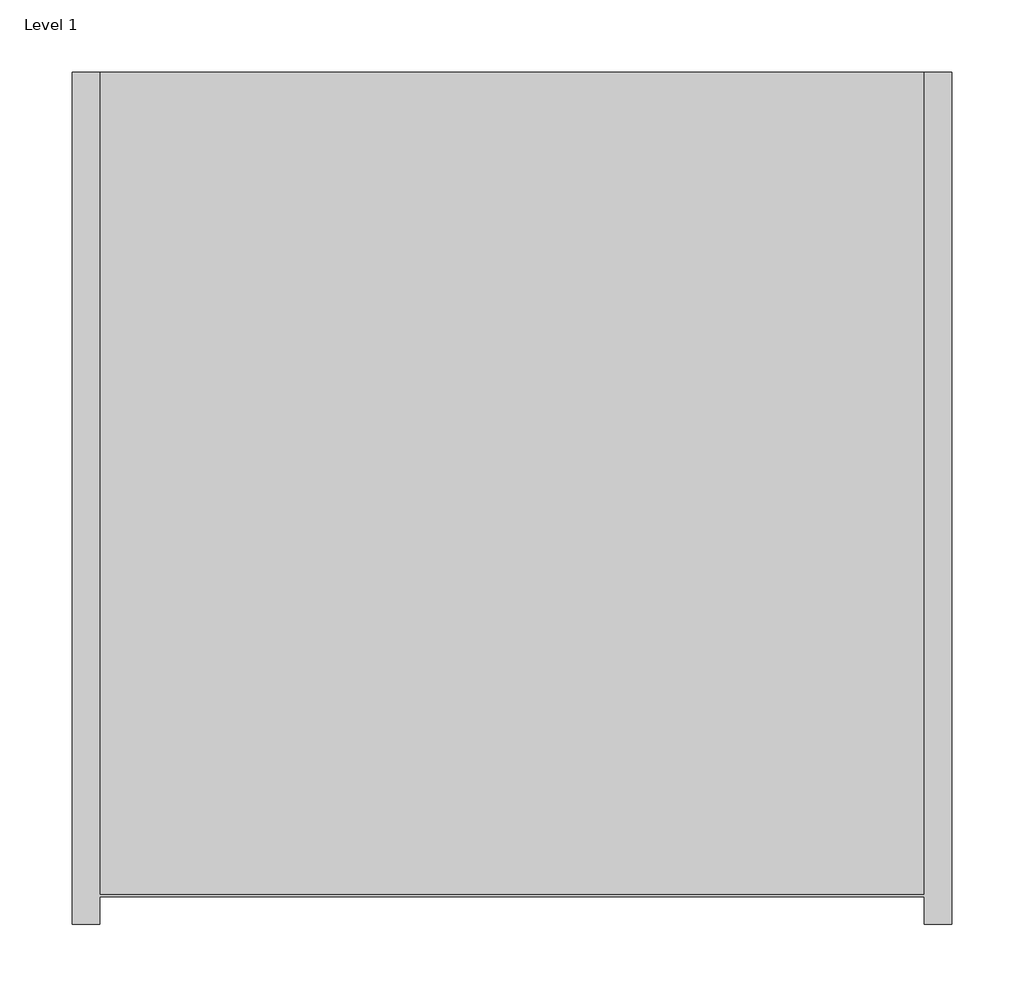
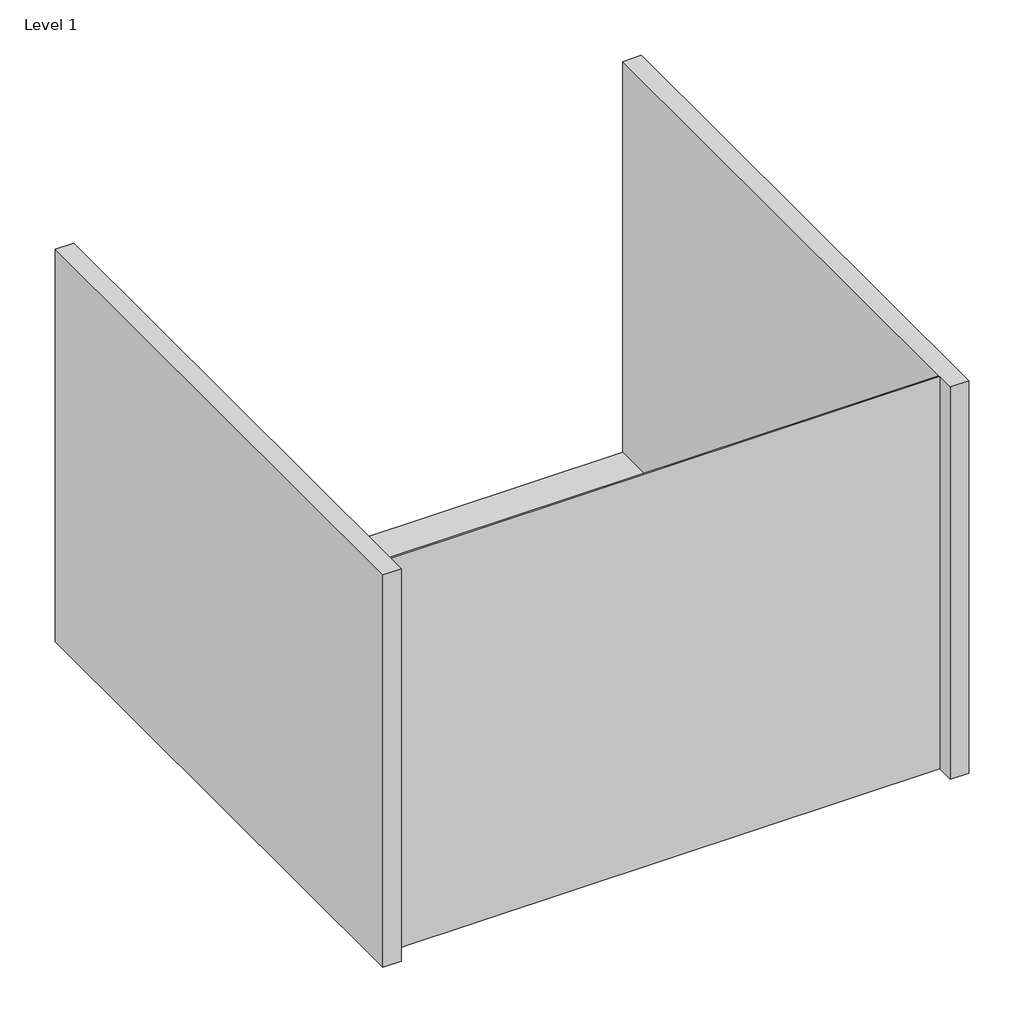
# One storey, incomplete: 1 furniture element.
"""IFC4 building model written with IfcOpenShell, lengths in millimetres."""

from ifc_helpers import new_model, si_unit, origin, place, context, project, spatial, transform, mapped, element, save
from components import furniture_fc90cfd9

model = new_model("IFC4")

# Units and contexts
model_context = context("Model", 3, world=origin())
ifc_project = project(units=[si_unit("LENGTHUNIT", "METRE", prefix="MILLI")], contexts=[model_context])

# Site, building, storey
site = spatial("IfcSite", under=ifc_project)
building = spatial("IfcBuilding", under=site)
storey = spatial("IfcBuildingStorey", under=building, Name="Level 1", Elevation=0.0)

# Furniture
placement = place(None, origin())
furniture_shape = furniture_fc90cfd9(model_context)
element("IfcFurniture", 1, ObjectType="HermanMiller_CoStruc_C2512_SinkModule : 18H x 24D x 24W", at=placement, inside=storey, context=model_context, shape_type="MappedRepresentation", body=[
    mapped(furniture_shape, transform((304.8, -168.275, 0.0), x_axis=(1.0, 0.0, 0.0), y_axis=(0.0, 1.0, 0.0), z_axis=(0.0, 0.0, 1.0))),
])

save(model, "model.ifc")
